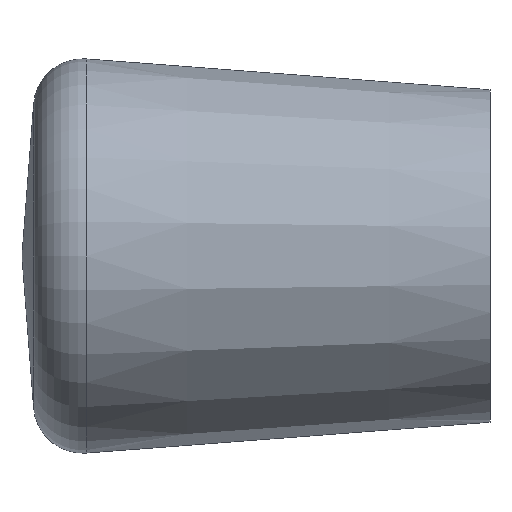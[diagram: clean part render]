
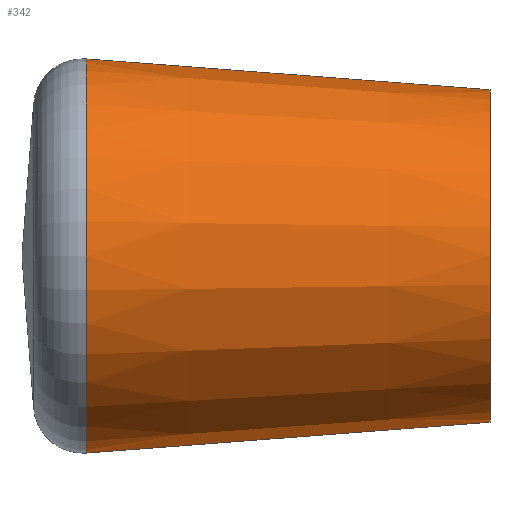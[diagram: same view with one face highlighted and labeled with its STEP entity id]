
A CAD part, left-side view. The second image highlights one B-rep face of the part: STEP entity #342.
In plain terms, the highlighted conical face has half-angle 4.363 degrees and reference radius 8 mm.
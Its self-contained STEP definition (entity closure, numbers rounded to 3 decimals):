
#4 = DIRECTION ( 'NONE',  ( 0., 0., -1. ) ) ;
#9 = DIRECTION ( 'NONE',  ( 0., -1., 0. ) ) ;
#10 = CARTESIAN_POINT ( 'NONE',  ( 0., 16.384, 0. ) ) ;
#22 = DIRECTION ( 'NONE',  ( 0., 0.997, -0.076 ) ) ;
#23 = CARTESIAN_POINT ( 'NONE',  ( 0., 16.384, -8. ) ) ;
#24 = DIRECTION ( 'NONE',  ( 0., 0., -1. ) ) ;
#25 = DIRECTION ( 'NONE',  ( 0., -1., 0. ) ) ;
#26 = CARTESIAN_POINT ( 'NONE',  ( 0., 0., 0. ) ) ;
#36 = CARTESIAN_POINT ( 'NONE',  ( 0., 16.384, 8. ) ) ;
#37 = CARTESIAN_POINT ( 'NONE',  ( 0., 16.384, -8. ) ) ;
#38 = CARTESIAN_POINT ( 'NONE',  ( 0., 0., -6.75 ) ) ;
#39 = CARTESIAN_POINT ( 'NONE',  ( 0., 0., 6.75 ) ) ;
#48 = CARTESIAN_POINT ( 'NONE',  ( 0., 16.384, 8. ) ) ;
#49 = DIRECTION ( 'NONE',  ( 0., 0.997, 0.076 ) ) ;
#72 = CARTESIAN_POINT ( 'NONE',  ( 0., 16.384, 0. ) ) ;
#73 = DIRECTION ( 'NONE',  ( 0., 1., 0. ) ) ;
#74 = DIRECTION ( 'NONE',  ( 0., 0., 1. ) ) ;
#154 = ORIENTED_EDGE ( 'NONE', *, *, #324, .T. ) ;
#163 = ORIENTED_EDGE ( 'NONE', *, *, #319, .F. ) ;
#170 = ORIENTED_EDGE ( 'NONE', *, *, #318, .F. ) ;
#178 = ORIENTED_EDGE ( 'NONE', *, *, #330, .T. ) ;
#190 = VERTEX_POINT ( 'NONE', #39 ) ;
#191 = VERTEX_POINT ( 'NONE', #38 ) ;
#192 = VERTEX_POINT ( 'NONE', #37 ) ;
#193 = VERTEX_POINT ( 'NONE', #36 ) ;
#211 = EDGE_LOOP ( 'NONE', ( #163, #170, #178, #154 ) ) ;
#222 = LINE ( 'NONE', #23, #384 ) ;
#225 = LINE ( 'NONE', #48, #364 ) ;
#230 = FACE_OUTER_BOUND ( 'NONE', #211, .T. ) ;
#318 = EDGE_CURVE ( 'NONE', #190, #191, #395, .T. ) ;
#319 = EDGE_CURVE ( 'NONE', #191, #192, #222, .T. ) ;
#324 = EDGE_CURVE ( 'NONE', #193, #192, #377, .T. ) ;
#330 = EDGE_CURVE ( 'NONE', #190, #193, #225, .T. ) ;
#342 = ADVANCED_FACE ( 'NONE', ( #230 ), #392, .T. ) ;
#364 = VECTOR ( 'NONE', #49, 1000. ) ;
#376 = AXIS2_PLACEMENT_3D ( 'NONE', #10, #9, #4 ) ;
#377 = CIRCLE ( 'NONE', #376, 8. ) ;
#384 = VECTOR ( 'NONE', #22, 1000. ) ;
#388 = AXIS2_PLACEMENT_3D ( 'NONE', #26, #25, #24 ) ;
#392 = CONICAL_SURFACE ( 'NONE', #398, 8., 0.076 ) ;
#395 = CIRCLE ( 'NONE', #388, 6.75 ) ;
#398 = AXIS2_PLACEMENT_3D ( 'NONE', #72, #73, #74 ) ;
